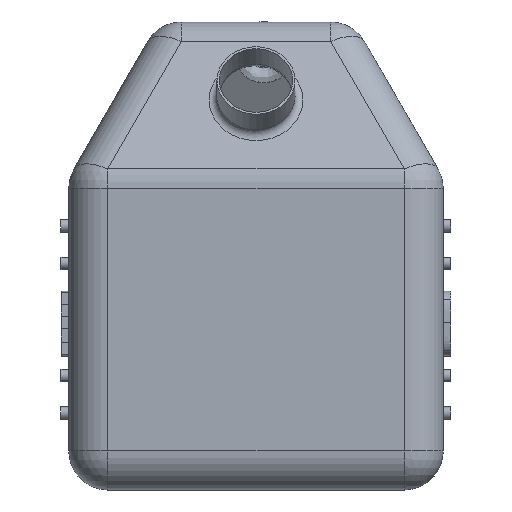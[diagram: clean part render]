
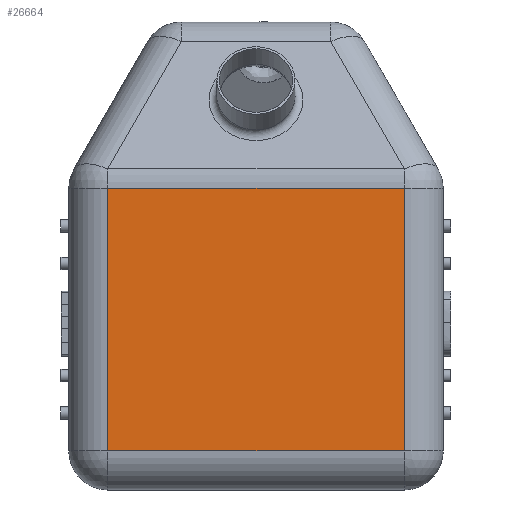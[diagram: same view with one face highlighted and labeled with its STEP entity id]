
A CAD part, front view. The second image highlights one B-rep face of the part: STEP entity #26664.
In plain terms, the highlighted planar face has unit normal (0, -1, 0).
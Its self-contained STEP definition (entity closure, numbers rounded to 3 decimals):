
#26070=CARTESIAN_POINT('',(-95.,-175.,25.0));
#26071=VERTEX_POINT('',#26070);
#26162=CARTESIAN_POINT('',(95.,-175.0,25.0));
#26163=VERTEX_POINT('',#26162);
#26258=CARTESIAN_POINT('',(-95.,-175.,193.301));
#26259=VERTEX_POINT('',#26258);
#26292=CARTESIAN_POINT('',(-95.,-175.,25.0));
#26293=DIRECTION('',(0.0,0.0,1.0));
#26294=VECTOR('',#26293,168.301);
#26295=LINE('',#26292,#26294);
#26296=EDGE_CURVE('',#26071,#26259,#26295,.T.);
#26306=CARTESIAN_POINT('',(95.,-175.0,193.301));
#26307=VERTEX_POINT('',#26306);
#26345=CARTESIAN_POINT('',(95.,-175.0,193.301));
#26346=DIRECTION('',(0.0,0.0,-1.0));
#26347=VECTOR('',#26346,168.301);
#26348=LINE('',#26345,#26347);
#26349=EDGE_CURVE('',#26307,#26163,#26348,.T.);
#26527=CARTESIAN_POINT('',(-95.,-175.,193.301));
#26528=DIRECTION('',(1.0,0.0,0.0));
#26529=VECTOR('',#26528,190.);
#26530=LINE('',#26527,#26529);
#26531=EDGE_CURVE('',#26259,#26307,#26530,.T.);
#26575=CARTESIAN_POINT('',(95.,-175.0,25.0));
#26576=DIRECTION('',(-1.0,0.0,0.0));
#26577=VECTOR('',#26576,190.);
#26578=LINE('',#26575,#26577);
#26579=EDGE_CURVE('',#26163,#26071,#26578,.T.);
#26653=CARTESIAN_POINT('',(120.,-175.0,0.0));
#26654=DIRECTION('',(0.0,-1.0,0.0));
#26655=DIRECTION('',(0.0,0.0,-1.0));
#26656=AXIS2_PLACEMENT_3D('',#26653,#26654,#26655);
#26657=PLANE('',#26656);
#26658=ORIENTED_EDGE('',*,*,#26349,.F.);
#26659=ORIENTED_EDGE('',*,*,#26531,.F.);
#26660=ORIENTED_EDGE('',*,*,#26296,.F.);
#26661=ORIENTED_EDGE('',*,*,#26579,.F.);
#26662=EDGE_LOOP('',(#26658,#26659,#26660,#26661));
#26663=FACE_OUTER_BOUND('',#26662,.T.);
#26664=ADVANCED_FACE('',(#26663),#26657,.T.);
